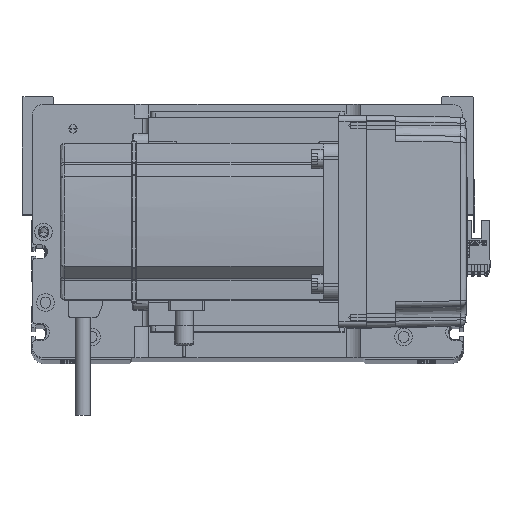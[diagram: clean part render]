
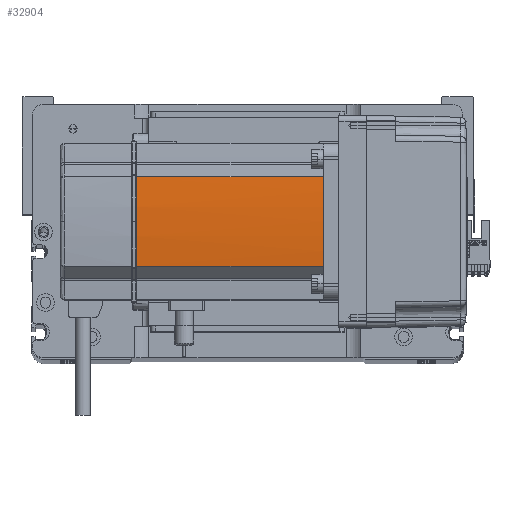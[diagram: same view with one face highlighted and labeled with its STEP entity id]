
A CAD part, top view. The second image highlights one B-rep face of the part: STEP entity #32904.
In plain terms, the highlighted cylindrical face has radius 270 mm (diameter 540 mm), a partial arc.
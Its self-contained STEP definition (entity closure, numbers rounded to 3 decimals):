
#1429 = DIRECTION ( 'NONE',  ( 0., 0., -1. ) ) ;
#1892 = CARTESIAN_POINT ( 'NONE',  ( -39.042, -22.724, 0. ) ) ;
#2822 = DIRECTION ( 'NONE',  ( 1., 0., 0. ) ) ;
#5500 = DIRECTION ( 'NONE',  ( 1., 0., 0. ) ) ;
#5921 = AXIS2_PLACEMENT_3D ( 'NONE', #30560, #38352, #13955 ) ;
#7095 = VECTOR ( 'NONE', #22409, 1000. ) ;
#7704 = LINE ( 'NONE', #1892, #7095 ) ;
#8087 = ORIENTED_EDGE ( 'NONE', *, *, #20593, .T. ) ;
#8120 = CARTESIAN_POINT ( 'NONE',  ( -39.042, 22.724, 39. ) ) ;
#8897 = CARTESIAN_POINT ( 'NONE',  ( 230., 0., 134. ) ) ;
#10145 = VERTEX_POINT ( 'NONE', #8120 ) ;
#10234 = DIRECTION ( 'NONE',  ( 1., 0., 0. ) ) ;
#10474 = CARTESIAN_POINT ( 'NONE',  ( -39.042, 22.724, 134. ) ) ;
#11370 = CYLINDRICAL_SURFACE ( 'NONE', #49326, 270. ) ;
#12131 = EDGE_CURVE ( 'NONE', #26152, #38816, #49245, .T. ) ;
#13787 = LINE ( 'NONE', #52594, #43747 ) ;
#13955 = DIRECTION ( 'NONE',  ( 1., 0., 0. ) ) ;
#17480 = ORIENTED_EDGE ( 'NONE', *, *, #33891, .T. ) ;
#19304 = CIRCLE ( 'NONE', #5921, 270. ) ;
#20394 = CARTESIAN_POINT ( 'NONE',  ( -39.042, -22.724, 39. ) ) ;
#20593 = EDGE_CURVE ( 'NONE', #38816, #34230, #19304, .T. ) ;
#22409 = DIRECTION ( 'NONE',  ( 0., 0., 1. ) ) ;
#23348 = CARTESIAN_POINT ( 'NONE',  ( 230., 0., 39. ) ) ;
#25061 = ORIENTED_EDGE ( 'NONE', *, *, #12131, .T. ) ;
#25207 = EDGE_CURVE ( 'NONE', #29853, #10145, #50313, .T. ) ;
#26152 = VERTEX_POINT ( 'NONE', #29494 ) ;
#28920 = CARTESIAN_POINT ( 'NONE',  ( -40., 0., 134. ) ) ;
#29494 = CARTESIAN_POINT ( 'NONE',  ( -39.042, -22.724, 134. ) ) ;
#29853 = VERTEX_POINT ( 'NONE', #20394 ) ;
#30560 = CARTESIAN_POINT ( 'NONE',  ( 230., 0., 134. ) ) ;
#30849 = AXIS2_PLACEMENT_3D ( 'NONE', #8897, #1429, #5500 ) ;
#32340 = DIRECTION ( 'NONE',  ( 0., 0., -1. ) ) ;
#32904 = ADVANCED_FACE ( 'NONE', ( #42022 ), #11370, .T. ) ;
#33891 = EDGE_CURVE ( 'NONE', #34230, #10145, #13787, .T. ) ;
#34230 = VERTEX_POINT ( 'NONE', #10474 ) ;
#38352 = DIRECTION ( 'NONE',  ( 0., 0., -1. ) ) ;
#38566 = DIRECTION ( 'NONE',  ( 0., 0., 1. ) ) ;
#38608 = AXIS2_PLACEMENT_3D ( 'NONE', #23348, #51649, #2822 ) ;
#38816 = VERTEX_POINT ( 'NONE', #28920 ) ;
#39882 = EDGE_LOOP ( 'NONE', ( #25061, #8087, #17480, #41679, #40799 ) ) ;
#40798 = EDGE_CURVE ( 'NONE', #29853, #26152, #7704, .T. ) ;
#40799 = ORIENTED_EDGE ( 'NONE', *, *, #40798, .T. ) ;
#41679 = ORIENTED_EDGE ( 'NONE', *, *, #25207, .F. ) ;
#42022 = FACE_OUTER_BOUND ( 'NONE', #39882, .T. ) ;
#43747 = VECTOR ( 'NONE', #32340, 1000. ) ;
#49245 = CIRCLE ( 'NONE', #30849, 270. ) ;
#49326 = AXIS2_PLACEMENT_3D ( 'NONE', #50704, #38566, #10234 ) ;
#50313 = CIRCLE ( 'NONE', #38608, 270. ) ;
#50704 = CARTESIAN_POINT ( 'NONE',  ( 230., 0., 0. ) ) ;
#51649 = DIRECTION ( 'NONE',  ( 0., 0., -1. ) ) ;
#52594 = CARTESIAN_POINT ( 'NONE',  ( -39.042, 22.724, 0. ) ) ;
